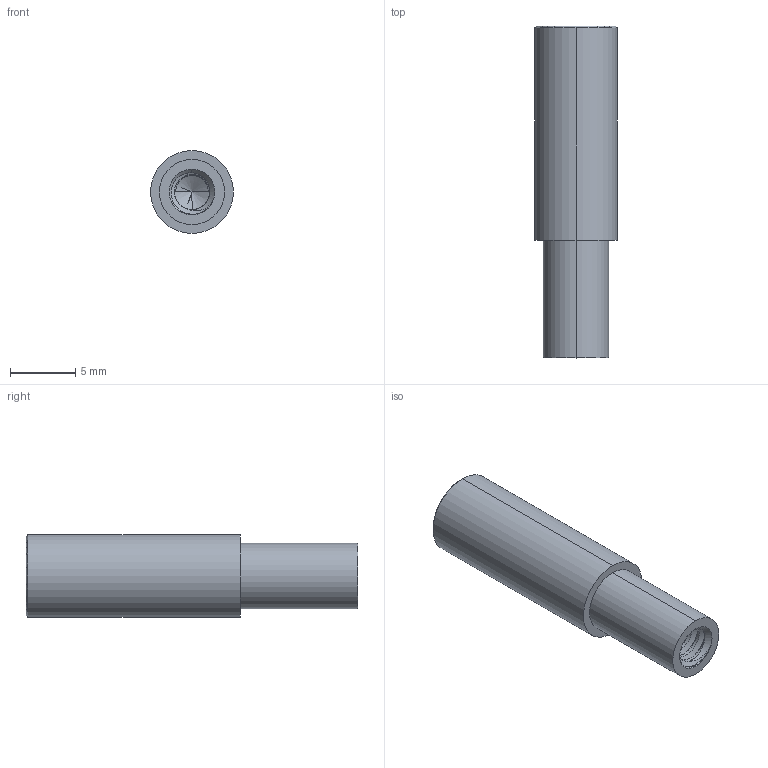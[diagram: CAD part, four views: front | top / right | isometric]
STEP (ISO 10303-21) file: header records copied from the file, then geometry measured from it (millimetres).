
FILE_DESCRIPTION (( 'STEP AP203' ), '1' );
FILE_NAME ('633162.STEP', '2017-06-28T20:06:35', ( '' ), ( '' ), 'SwSTEP 2.0', 'SolidWorks 2016', '' );
FILE_SCHEMA (( 'CONFIG_CONTROL_DESIGN' ));
Length unit declared in the file: inch
Products named in the file (1): 633162
Bounding box: 6.34 x 25.4 x 6.34 mm (x, y, z)
Volume: 566.9 mm3; surface area: 776.4 mm2
Topology: 1 solids, 1 shells, 113 faces, 321 edges, 207 vertices
Faces by surface type: cylinder 89, cone 17, bspline 4, plane 3
Entity records: 6976 total; most frequent: CARTESIAN_POINT 4463, ORIENTED_EDGE 630, DIRECTION 385, EDGE_CURVE 315, VERTEX_POINT 207, AXIS2_PLACEMENT_3D 142, EDGE_LOOP 116, FACE_OUTER_BOUND 113
